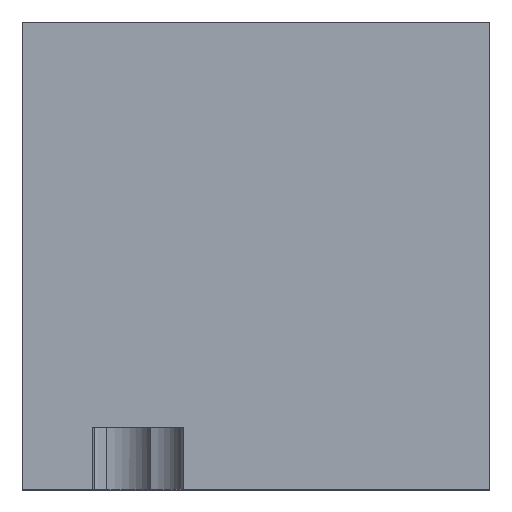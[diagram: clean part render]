
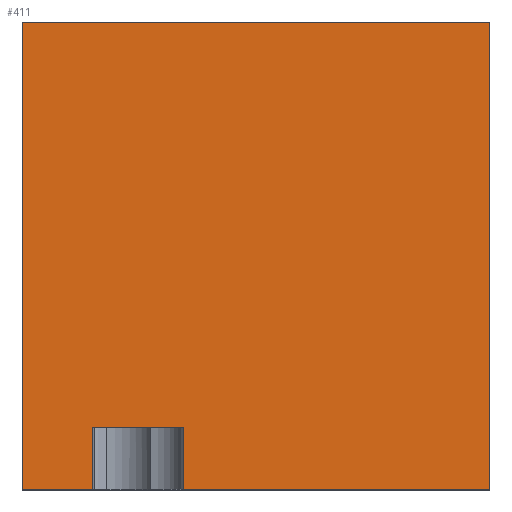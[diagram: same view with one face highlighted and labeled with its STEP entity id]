
A CAD part, top view. The second image highlights one B-rep face of the part: STEP entity #411.
In plain terms, the highlighted planar face has unit normal (0, 0, 1).
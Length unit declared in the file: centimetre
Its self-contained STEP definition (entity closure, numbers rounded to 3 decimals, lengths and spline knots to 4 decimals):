
#7 = CARTESIAN_POINT ( 'NONE',  ( 0., 132.9361, 1000. ) ) ;
#19 = CARTESIAN_POINT ( 'NONE',  ( 1000., 1000., 1000. ) ) ;
#21 = CARTESIAN_POINT ( 'NONE',  ( 344.7773, 132.9361, 1000. ) ) ;
#34 = CARTESIAN_POINT ( 'NONE',  ( 0., 1000., 1000. ) ) ;
#70 = LINE ( 'NONE', #7, #850 ) ;
#78 = EDGE_LOOP ( 'NONE', ( #456, #240, #491, #81, #251, #788, #694, #328 ) ) ;
#81 = ORIENTED_EDGE ( 'NONE', *, *, #261, .T. ) ;
#88 = CARTESIAN_POINT ( 'NONE',  ( 1000., 0., 1000. ) ) ;
#95 = DIRECTION ( 'NONE',  ( 1., 0., 0. ) ) ;
#116 = DIRECTION ( 'NONE',  ( 0., -1., 0. ) ) ;
#123 = EDGE_CURVE ( 'NONE', #165, #229, #712, .T. ) ;
#125 = DIRECTION ( 'NONE',  ( -1., 0., 0. ) ) ;
#132 = CARTESIAN_POINT ( 'NONE',  ( 0., 0., 1000. ) ) ;
#137 = DIRECTION ( 'NONE',  ( 1., 0., 0. ) ) ;
#152 = VERTEX_POINT ( 'NONE', #938 ) ;
#165 = VERTEX_POINT ( 'NONE', #285 ) ;
#193 = VECTOR ( 'NONE', #116, 100. ) ;
#213 = DIRECTION ( 'NONE',  ( 0., -1., 0. ) ) ;
#221 = EDGE_CURVE ( 'NONE', #867, #703, #361, .T. ) ;
#229 = VERTEX_POINT ( 'NONE', #231 ) ;
#231 = CARTESIAN_POINT ( 'NONE',  ( 149.1825, 0., 1000. ) ) ;
#240 = ORIENTED_EDGE ( 'NONE', *, *, #892, .F. ) ;
#251 = ORIENTED_EDGE ( 'NONE', *, *, #525, .T. ) ;
#261 = EDGE_CURVE ( 'NONE', #703, #477, #366, .T. ) ;
#264 = VECTOR ( 'NONE', #574, 100. ) ;
#271 = LINE ( 'NONE', #349, #193 ) ;
#285 = CARTESIAN_POINT ( 'NONE',  ( 0., 0., 1000. ) ) ;
#303 = DIRECTION ( 'NONE',  ( -1., 0., 0. ) ) ;
#312 = DIRECTION ( 'NONE',  ( 0., 1., 0. ) ) ;
#328 = ORIENTED_EDGE ( 'NONE', *, *, #123, .T. ) ;
#330 = AXIS2_PLACEMENT_3D ( 'NONE', #464, #393, #95 ) ;
#342 = LINE ( 'NONE', #559, #664 ) ;
#349 = CARTESIAN_POINT ( 'NONE',  ( 149.1825, 132.9361, 1000. ) ) ;
#361 = LINE ( 'NONE', #21, #264 ) ;
#363 = LINE ( 'NONE', #939, #711 ) ;
#366 = LINE ( 'NONE', #651, #689 ) ;
#383 = CARTESIAN_POINT ( 'NONE',  ( 149.1825, 132.9361, 1000. ) ) ;
#393 = DIRECTION ( 'NONE',  ( 0., 0., 1. ) ) ;
#399 = VERTEX_POINT ( 'NONE', #34 ) ;
#411 = ADVANCED_FACE ( 'NONE', ( #658 ), #813, .T. ) ;
#456 = ORIENTED_EDGE ( 'NONE', *, *, #741, .F. ) ;
#464 = CARTESIAN_POINT ( 'NONE',  ( 0., 0., 1000. ) ) ;
#477 = VERTEX_POINT ( 'NONE', #88 ) ;
#491 = ORIENTED_EDGE ( 'NONE', *, *, #221, .T. ) ;
#497 = CARTESIAN_POINT ( 'NONE',  ( 344.7773, 132.9361, 1000. ) ) ;
#525 = EDGE_CURVE ( 'NONE', #477, #152, #670, .T. ) ;
#559 = CARTESIAN_POINT ( 'NONE',  ( 0., 1000., 1000. ) ) ;
#574 = DIRECTION ( 'NONE',  ( 0., -1., 0. ) ) ;
#651 = CARTESIAN_POINT ( 'NONE',  ( 0., 0., 1000. ) ) ;
#658 = FACE_OUTER_BOUND ( 'NONE', #78, .T. ) ;
#664 = VECTOR ( 'NONE', #125, 100. ) ;
#670 = LINE ( 'NONE', #19, #685 ) ;
#685 = VECTOR ( 'NONE', #312, 100. ) ;
#689 = VECTOR ( 'NONE', #942, 100. ) ;
#694 = ORIENTED_EDGE ( 'NONE', *, *, #915, .T. ) ;
#699 = EDGE_CURVE ( 'NONE', #152, #399, #342, .T. ) ;
#703 = VERTEX_POINT ( 'NONE', #786 ) ;
#711 = VECTOR ( 'NONE', #213, 100. ) ;
#712 = LINE ( 'NONE', #132, #912 ) ;
#741 = EDGE_CURVE ( 'NONE', #921, #229, #271, .T. ) ;
#786 = CARTESIAN_POINT ( 'NONE',  ( 344.7773, 0., 1000. ) ) ;
#788 = ORIENTED_EDGE ( 'NONE', *, *, #699, .T. ) ;
#813 = PLANE ( 'NONE',  #330 ) ;
#850 = VECTOR ( 'NONE', #303, 100. ) ;
#867 = VERTEX_POINT ( 'NONE', #497 ) ;
#892 = EDGE_CURVE ( 'NONE', #867, #921, #70, .T. ) ;
#912 = VECTOR ( 'NONE', #137, 100. ) ;
#915 = EDGE_CURVE ( 'NONE', #399, #165, #363, .T. ) ;
#921 = VERTEX_POINT ( 'NONE', #383 ) ;
#938 = CARTESIAN_POINT ( 'NONE',  ( 1000., 1000., 1000. ) ) ;
#939 = CARTESIAN_POINT ( 'NONE',  ( 0., 1000., 1000. ) ) ;
#942 = DIRECTION ( 'NONE',  ( 1., 0., 0. ) ) ;
